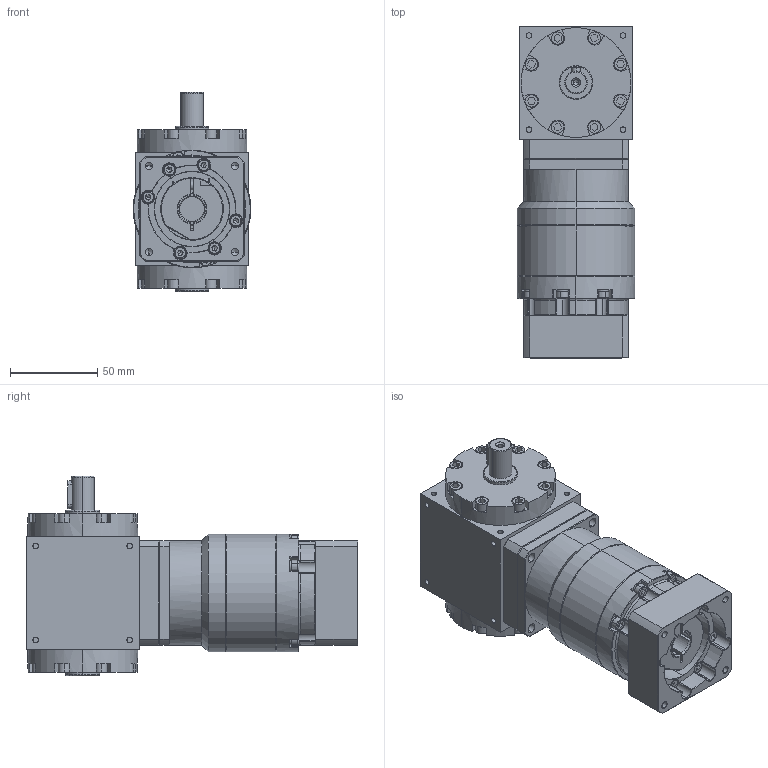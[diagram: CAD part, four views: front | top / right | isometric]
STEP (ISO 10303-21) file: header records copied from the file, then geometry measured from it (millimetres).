
FILE_DESCRIPTION (( 'STEP AP203' ), '1' );
FILE_NAME ('AT065-FR1-L2 14-50-70-M5.STEP', '2024-12-18T09:21:21', ( '' ), ( '' ), 'SwSTEP 2.0', 'SolidWorks 2021', '' );
FILE_SCHEMA (( 'CONFIG_CONTROL_DESIGN' ));
Length unit declared in the file: millimetre
Products named in the file (3): AT065-FR1; AT065-FR1-L2 14-50-70-M5; VRB-060-L2-S2-P1 14-50-70-M5
Assembly tree (2 placements, depth 2):
  AT065-FR1-L2 14-50-70-M5
    AT065-FR1
    VRB-060-L2-S2-P1 14-50-70-M5
Bounding box: 67.5 x 190.5 x 114.5 mm (x, y, z)
Volume: 681267.8 mm3; surface area: 120799.7 mm2
Topology: 34 solids, 34 shells, 1507 faces, 3768 edges, 2369 vertices
Faces by surface type: plane 636, cylinder 571, cone 228, torus 54, bspline 18
Entity records: 45883 total; most frequent: CARTESIAN_POINT 9579, DIRECTION 7813, ORIENTED_EDGE 7416, EDGE_CURVE 3708, AXIS2_PLACEMENT_3D 3010, VERTEX_POINT 2369, VECTOR 1793, LINE 1793
